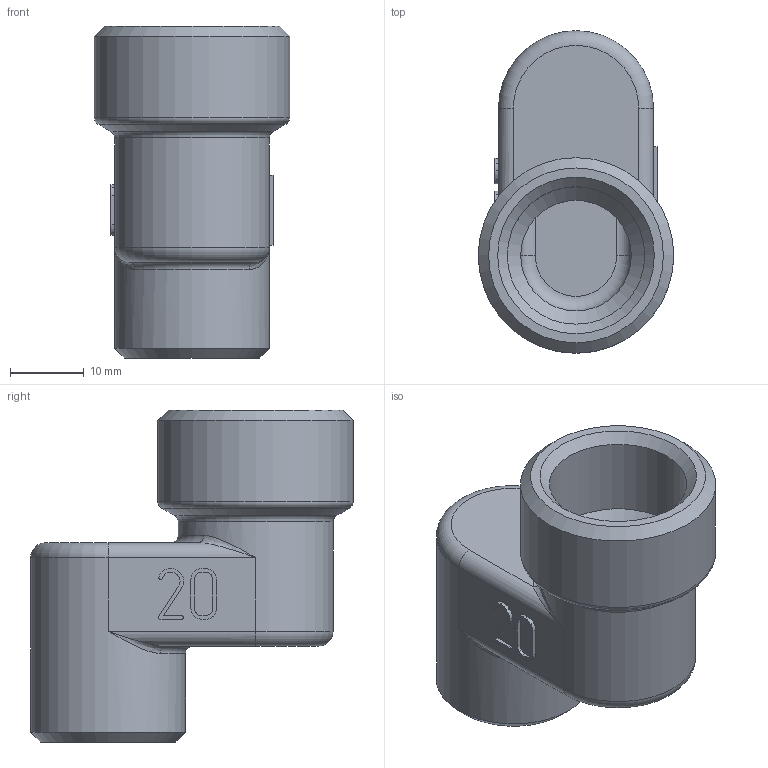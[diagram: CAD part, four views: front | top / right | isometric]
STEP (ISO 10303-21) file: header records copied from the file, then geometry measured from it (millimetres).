
FILE_DESCRIPTION(('STEP AP203'), '1');
FILE_NAME('ÂÐ.752289.008 - VTr.094.N.04020 - Ôèò. ðåçüá. ýêñö', '2024-06-21T11:49:50', ('Boss'), (''), 'C3D Converter', 'C3D Toolkit', '');
FILE_SCHEMA(('CONFIG_CONTROL_DESIGN'));
Length unit declared in the file: millimetre
Products named in the file (1): ВР.752289.008
Bounding box: 26.5 x 43.75 x 45 mm (x, y, z)
Volume: 12497.9 mm3; surface area: 8031.3 mm2
Topology: 1 solids, 1 shells, 123 faces, 317 edges, 194 vertices
Faces by surface type: plane 45, extrusion 39, cylinder 15, torus 11, bspline 8, cone 5
Full cylindrical faces by diameter (mm): 15 x2, 18.632 x1, 21 x2, 26.5 x1
Entity records: 4672 total; most frequent: CARTESIAN_POINT 1951, ORIENTED_EDGE 590, DIRECTION 428, EDGE_CURVE 295, VERTEX_POINT 194, VECTOR 190, LINE 151, EDGE_LOOP 145
